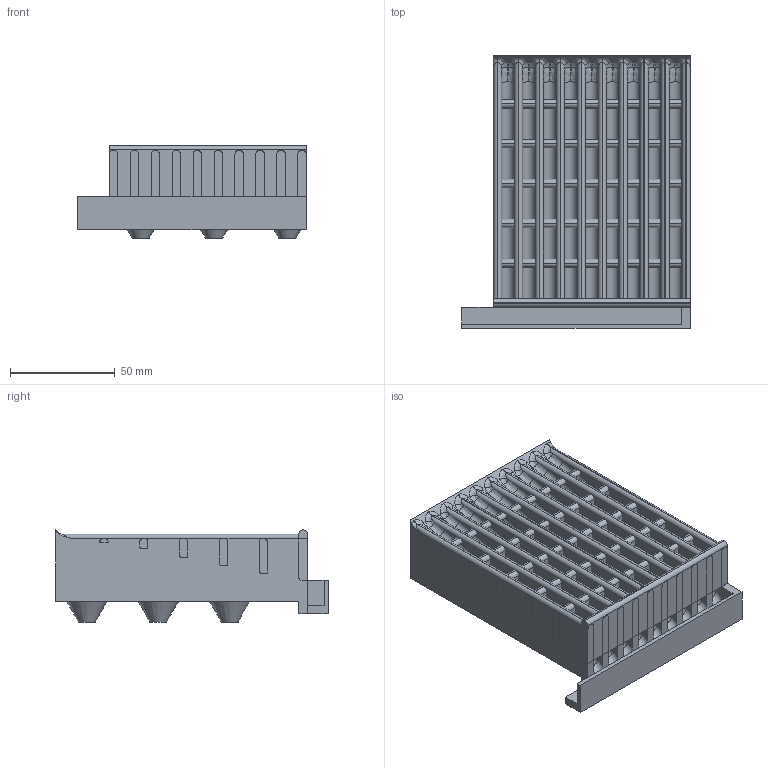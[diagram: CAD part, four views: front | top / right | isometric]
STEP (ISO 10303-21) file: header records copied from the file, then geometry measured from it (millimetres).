
FILE_DESCRIPTION(/* description */ ('STEP AP242','CAx-IF Rec.Pracs.---Representation and Presentation of Product Manufacturing Information (PMI)---4.0---2014-10-13','CAx-IF Rec.Pracs.---3D Tessellated Geometry---0.4---2014-09-14','2;1'),/* implementation_level */ '2;1');
FILE_NAME(/* name */ '66c9b4f6ffaa4d41a46b34bb',/* time_stamp */ '2024-08-24T10:24:55Z',/* author */ (''),/* organization */ (''),/* preprocessor_version */ 'ST-DEVELOPER v20',/* originating_system */ ' ',/* authorisation */ ' ');
FILE_SCHEMA (('AP242_MANAGED_MODEL_BASED_3D_ENGINEERING_MIM_LF { 1 0 10303 442 1 1 4 }'));
Length unit declared in the file: metre
Products named in the file (8): Part 2; Part 8; Part 7; Part 6; Part 5; Part 4; Part 3; Part 1
Bounding box: 109 x 130 x 44.07 mm (x, y, z)
Volume: 302753.7 mm3; surface area: 89481.5 mm2
Topology: 8 solids, 8 shells, 237 faces, 581 edges, 363 vertices
Faces by surface type: plane 95, cylinder 69, bspline 58, torus 10, cone 5
Entity records: 7680 total; most frequent: CARTESIAN_POINT 2091, ORIENTED_EDGE 1142, DIRECTION 1137, EDGE_CURVE 571, AXIS2_PLACEMENT_3D 441, VERTEX_POINT 358, LINE 255, VECTOR 255
